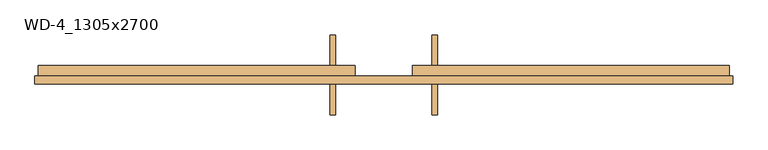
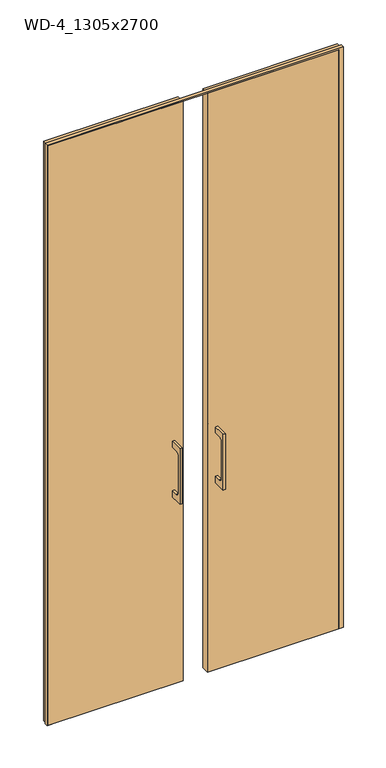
"""IFC4 building model written with IfcOpenShell, lengths in millimetres: door geometry, Steel_Doule-Door : WD-4_1305x2700."""

from ifc_helpers import new_model, si_unit, point, frame, frame_2d, origin, origin_with_axes, place, context, project, spatial, polyline, circle_curve, trimmed, segment, composite_curve, outline, extrude, source, transform, mapped, element, save


def wd_4_1305x2700_2a4c9971(model_context):
    return source(origin(), model_context, "Body", "SweptSolid", [
        extrude(outline(polyline([(-87.75, 870.0), (-87.75, 1130.0), (-12.75, 1130.0), (62.25, 1130.0), (62.25, 870.0), (-12.75, 870.0), (-87.75, 870.0)]), holes=[composite_curve([segment(trimmed(circle_curve(frame_2d((-57.75, 1085.0)), 15.0), [point((-57.75, 1100.0))], [point((-72.75, 1085.0))], True, "CARTESIAN"), True, "CONTINUOUS"), segment(polyline([(-72.75, 1085.0), (-72.75, 915.0)]), True, "CONTINUOUS"), segment(trimmed(circle_curve(frame_2d((-57.75, 915.0)), 15.0), [point((-72.75, 915.0))], [point((-57.75, 900.0))], True, "CARTESIAN"), True, "CONTINUOUS"), segment(polyline([(-57.75, 900.0), (-12.75, 900.0), (32.25, 900.0)]), True, "CONTINUOUS"), segment(trimmed(circle_curve(frame_2d((32.25, 915.0)), 15.0), [point((32.25, 900.0))], [point((47.25, 915.0))], True, "CARTESIAN"), True, "CONTINUOUS"), segment(polyline([(47.25, 915.0), (47.25, 1085.0)]), True, "CONTINUOUS"), segment(trimmed(circle_curve(frame_2d((32.25, 1085.0)), 15.0), [point((47.25, 1085.0))], [point((32.25, 1100.0))], True, "CARTESIAN"), True, "CONTINUOUS"), segment(polyline([(32.25, 1100.0), (-12.75, 1100.0), (-57.75, 1100.0)]), True, "CONTINUOUS")], self_intersect=False)]), frame((-100.0, 0.0, 0.0), z_axis=(1.0, 0.0, 0.0), x_axis=(0.0, 1.0, 0.0)), (0.0, 0.0, 1.0), 10.0),
        extrude(outline(polyline([(-87.75, 870.0), (-87.75, 1130.0), (-12.75, 1130.0), (62.25, 1130.0), (62.25, 870.0), (-12.75, 870.0), (-87.75, 870.0)]), holes=[composite_curve([segment(trimmed(circle_curve(frame_2d((-57.75, 1085.0)), 15.0), [point((-57.75, 1100.0))], [point((-72.75, 1085.0))], True, "CARTESIAN"), True, "CONTINUOUS"), segment(polyline([(-72.75, 1085.0), (-72.75, 915.0)]), True, "CONTINUOUS"), segment(trimmed(circle_curve(frame_2d((-57.75, 915.0)), 15.0), [point((-72.75, 915.0))], [point((-57.75, 900.0))], True, "CARTESIAN"), True, "CONTINUOUS"), segment(polyline([(-57.75, 900.0), (-12.75, 900.0), (32.25, 900.0)]), True, "CONTINUOUS"), segment(trimmed(circle_curve(frame_2d((32.25, 915.0)), 15.0), [point((32.25, 900.0))], [point((47.25, 915.0))], True, "CARTESIAN"), True, "CONTINUOUS"), segment(polyline([(47.25, 915.0), (47.25, 1085.0)]), True, "CONTINUOUS"), segment(trimmed(circle_curve(frame_2d((32.25, 1085.0)), 15.0), [point((47.25, 1085.0))], [point((32.25, 1100.0))], True, "CARTESIAN"), True, "CONTINUOUS"), segment(polyline([(32.25, 1100.0), (-12.75, 1100.0), (-57.75, 1100.0)]), True, "CONTINUOUS")], self_intersect=False)]), frame((90.0, 0.0, 0.0), z_axis=(1.0, 0.0, 0.0), x_axis=(0.0, 1.0, 0.0)), (0.0, 0.0, 1.0), 10.0),
        extrude(outline(polyline([(-54.0, -30.25), (-646.5, -30.25), (-646.5, 4.75), (-54.0, 4.75), (-54.0, -30.25)])), origin_with_axes(), (0.0, 0.0, 1.0), 2695.0),
        extrude(outline(polyline([(2700.0, -652.5), (0.0, -652.5), (0.0, -632.5), (2695.0, -632.5), (2695.0, 632.5), (0.0, 632.5), (0.0, 652.5), (2700.0, 652.5), (2700.0, -652.5)])), frame((0.0, -30.25, 0.0), z_axis=(0.0, 1.0, 0.0), x_axis=(0.0, 0.0, 1.0)), (0.0, 0.0, 1.0), 15.5),
        extrude(outline(polyline([(646.5, -30.25), (54.0, -30.25), (54.0, 4.75), (646.5, 4.75), (646.5, -30.25)])), origin_with_axes(), (0.0, 0.0, 1.0), 2695.0),
    ])


if __name__ == "__main__":
    model = new_model("IFC4")
    model_context = context("Model", 3, world=origin())
    ifc_project = project(units=[si_unit("LENGTHUNIT", "METRE", prefix="MILLI")], contexts=[model_context])
    site = spatial("IfcSite", under=ifc_project)
    building = spatial("IfcBuilding", under=site)
    placement = place(None, origin())
    wd_4_1305x2700_shape = wd_4_1305x2700_2a4c9971(model_context)
    element("IfcDoor", 1, ObjectType="Steel_Doule-Door : WD-4_1305x2700", at=placement, inside=building, context=model_context, shape_type="MappedRepresentation", body=[
        mapped(wd_4_1305x2700_shape, transform((0.0, 0.0, 0.0), x_axis=(1.0, 0.0, 0.0), y_axis=(0.0, 1.0, 0.0), z_axis=(0.0, 0.0, 1.0))),
    ])
    save(model, "model.ifc")
